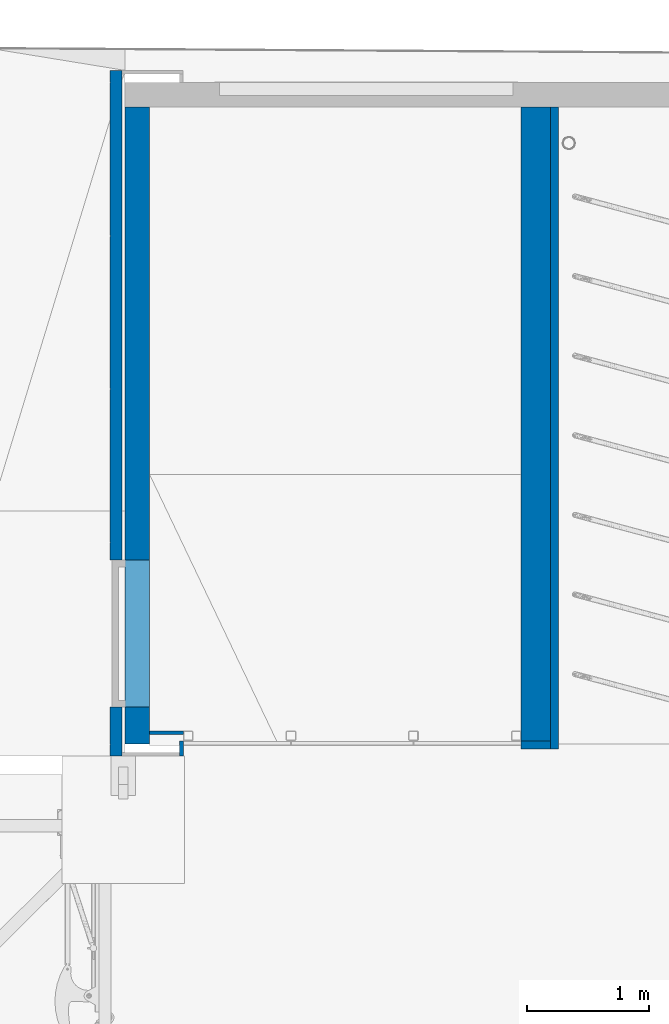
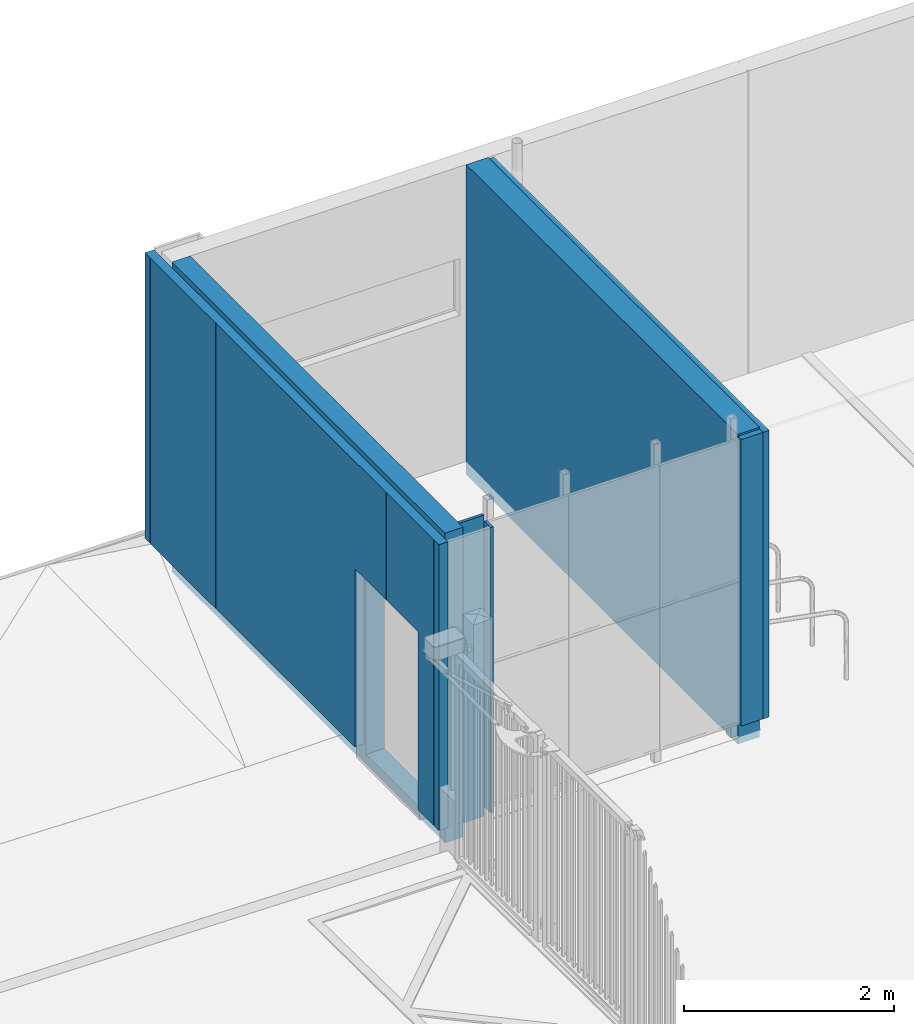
# One storey, part 21 of 77: 7 walls, 9 openings.
"""IFC2X3 building model written with IfcOpenShell, lengths in millimetres."""

from ifc_helpers import new_model, entity, si_unit, converted_unit, derived_unit, direction, frame, frame_2d, origin, place, context, subcontext, project, spatial, rectangle, extrude, material, layer, layer_set, layer_usage, type_object, element, save


model = new_model("IFC2X3")

# Units and contexts
model_context = context("Model", 3, precision=0.01, world=origin(), true_north=direction((6.12303176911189e-17, 1.0)))
body_context = subcontext(model_context, "Body", "Model", "MODEL_VIEW")
ifc_project = project(units=[si_unit("LENGTHUNIT", "METRE", prefix="MILLI"), si_unit("AREAUNIT", "SQUARE_METRE"), si_unit("VOLUMEUNIT", "CUBIC_METRE"), converted_unit("PLANEANGLEUNIT", "DEGREE", entity("IfcRatioMeasure", 0.0174532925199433), si_unit("PLANEANGLEUNIT", "RADIAN"), dimensions=[0, 0, 0, 0, 0, 0, 0]), si_unit("MASSUNIT", "GRAM", prefix="KILO"), derived_unit("MASSDENSITYUNIT", [(si_unit("MASSUNIT", "GRAM", prefix="KILO"), 1), (si_unit("LENGTHUNIT", "METRE"), -3)]), si_unit("TIMEUNIT", "SECOND"), si_unit("FREQUENCYUNIT", "HERTZ"), si_unit("THERMODYNAMICTEMPERATUREUNIT", "DEGREE_CELSIUS"), derived_unit("THERMALTRANSMITTANCEUNIT", [(si_unit("MASSUNIT", "GRAM", prefix="KILO"), 1), (si_unit("THERMODYNAMICTEMPERATUREUNIT", "KELVIN"), -1), (si_unit("TIMEUNIT", "SECOND"), -3)]), derived_unit("VOLUMETRICFLOWRATEUNIT", [(si_unit("LENGTHUNIT", "METRE"), 3), (si_unit("TIMEUNIT", "SECOND"), -1)]), si_unit("ELECTRICCURRENTUNIT", "AMPERE"), si_unit("ELECTRICVOLTAGEUNIT", "VOLT"), si_unit("POWERUNIT", "WATT"), si_unit("FORCEUNIT", "NEWTON", prefix="KILO"), si_unit("ILLUMINANCEUNIT", "LUX"), si_unit("LUMINOUSFLUXUNIT", "LUMEN"), si_unit("LUMINOUSINTENSITYUNIT", "CANDELA"), derived_unit("USERDEFINED", [(si_unit("MASSUNIT", "GRAM", prefix="KILO"), -1), (si_unit("LENGTHUNIT", "METRE"), -2), (si_unit("TIMEUNIT", "SECOND"), 3), (si_unit("LUMINOUSFLUXUNIT", "LUMEN"), 1)]), derived_unit("LINEARVELOCITYUNIT", [(si_unit("LENGTHUNIT", "METRE"), 1), (si_unit("TIMEUNIT", "SECOND"), -1)]), si_unit("PRESSUREUNIT", "PASCAL"), derived_unit("USERDEFINED", [(si_unit("LENGTHUNIT", "METRE"), -2), (si_unit("MASSUNIT", "GRAM", prefix="KILO"), 1), (si_unit("TIMEUNIT", "SECOND"), -2)])], contexts=[model_context])

# Site, building, storey
site_placement = place(None, origin())
site = spatial("IfcSite", under=ifc_project, at=site_placement, Name="Default", CompositionType="ELEMENT")
building_placement = place(site_placement, origin())
building = spatial("IfcBuilding", under=site, at=building_placement, CompositionType="ELEMENT")
storey_placement = place(building_placement, origin())
storey = spatial("IfcBuildingStorey", under=building, at=storey_placement, Name="1. KORRUS", CompositionType="ELEMENT", Elevation=0.0)

# Wall
ifc_material_1 = material(Name="Columbia-kivi(_värvitud-must")
ifc_layer_1 = layer(ifc_material_1, 240.0)
ifc_layer_set_1 = layer_set([ifc_layer_1], Name="Basic Wall:VS-11_Columbia240-must")
ifc_layer_usage_1 = layer_usage(ifc_layer_set_1, "AXIS2", "POSITIVE", -120.0)
wall_type_1 = type_object("IfcWallType", Name="Basic Wall:VS-11_Columbia240-must", PredefinedType="STANDARD", material=ifc_layer_set_1)
wall_1_placement = place(storey_placement, frame((-13120.2343602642, 35425.0994344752, -200.0), z_axis=(0.0, 0.0, 1.0), x_axis=(0.0, 1.0, 0.0)))
element("IfcWallStandardCase", 1, at=wall_1_placement, inside=storey, type_object=wall_type_1, material=ifc_layer_usage_1, Name="Basic Wall:VS-11_Columbia240-must", ObjectType="Basic Wall:VS-11_Columbia240-must", context=body_context, shape_type="SweptSolid", body=[
    extrude(rectangle(XDim=5174.99999999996, YDim=240.000000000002, at=frame_2d((2587.49999999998, 0.0), x_axis=(-1.0, 0.0))), origin(), (0.0, 0.0, 1.0), 3600.0),
])

# Wall, openings
ifc_material_2 = material(Name="Must-al-komposiitplaat")
ifc_layer_2 = layer(ifc_material_2, 5.0)
ifc_material_3 = material(Name="Metal Stud Layer")
ifc_layer_3 = layer(ifc_material_3, 95.0)
ifc_layer_set_2 = layer_set([ifc_layer_2, ifc_layer_3], Name="Basic Wall:Alumiinium-komposiitplaat roovidel")
ifc_layer_usage_2 = layer_usage(ifc_layer_set_2, "AXIS2", "NEGATIVE", 50.0)
wall_type_2 = type_object("IfcWallType", Name="Basic Wall:Alumiinium-komposiitplaat roovidel", PredefinedType="STANDARD", material=ifc_layer_set_2)
wall_2_placement = place(storey_placement, frame((-16550.2351867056, 35300.0994344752, 50.0), z_axis=(0.0, 0.0, 1.0), x_axis=(0.0, 1.0, 0.0)))
wall_2 = element("IfcWallStandardCase", 2, at=wall_2_placement, inside=storey, type_object=wall_type_2, material=ifc_layer_usage_2, Name="Basic Wall:Alumiinium-komposiitplaat roovidel", ObjectType="Basic Wall:Alumiinium-komposiitplaat roovidel", context=body_context, shape_type="SweptSolid", body=[
    extrude(rectangle(XDim=5599.99999999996, YDim=99.9999999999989, at=frame_2d((2799.99999999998, 0.0), x_axis=(-1.0, 0.0))), origin(), (0.0, 0.0, 1.0), 3320.0),
])
opening_1_placement = place(wall_2_placement, origin())
element("IfcOpeningElement", 3, at=opening_1_placement, cuts=wall_2, Name="Basic Wall:Alumiinium-komposiitplaat roovidel", ObjectType="Recess", context=body_context, shape_type="SweptSolid", body=[
    extrude(rectangle(XDim=3320.0, YDim=4.99999999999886, at=frame_2d((2.27373675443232e-13, 0.0), x_axis=(1.0, 0.0))), frame((5497.5, 45.0, 1660.0), z_axis=(0.0, 1.0, 0.0), x_axis=(0.0, 0.0, 1.0)), (0.0, 0.0, 1.0), 5.00000000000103),
])
opening_2_placement = place(wall_2_placement, origin())
element("IfcOpeningElement", 4, at=opening_2_placement, cuts=wall_2, Name="Basic Wall:Alumiinium-komposiitplaat roovidel", ObjectType="Recess", context=body_context, shape_type="SweptSolid", body=[
    extrude(rectangle(XDim=3320.0, YDim=4.99999999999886, at=frame_2d((2.27373675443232e-13, 0.0), x_axis=(1.0, 0.0))), frame((4247.5, 45.0, 1660.0), z_axis=(0.0, 1.0, 0.0), x_axis=(0.0, 0.0, 1.0)), (0.0, 0.0, 1.0), 5.00000000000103),
])
opening_3_placement = place(wall_2_placement, origin())
element("IfcOpeningElement", 5, at=opening_3_placement, cuts=wall_2, Name="Basic Wall:Alumiinium-komposiitplaat roovidel", ObjectType="Recess", context=body_context, shape_type="SweptSolid", body=[
    extrude(rectangle(XDim=3320.0, YDim=4.99999999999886, at=frame_2d((2.27373675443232e-13, 0.0), x_axis=(1.0, 0.0))), frame((5497.5, 45.0, 1660.0), z_axis=(0.0, 1.0, 0.0), x_axis=(0.0, 0.0, 1.0)), (0.0, 0.0, 1.0), 5.00000000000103),
])
opening_4_placement = place(wall_2_placement, origin())
element("IfcOpeningElement", 6, at=opening_4_placement, cuts=wall_2, Name="Basic Wall:Alumiinium-komposiitplaat roovidel", ObjectType="Recess", context=body_context, shape_type="SweptSolid", body=[
    extrude(rectangle(XDim=3320.0, YDim=4.99999999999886, at=frame_2d((2.27373675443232e-13, 0.0), x_axis=(1.0, 0.0))), frame((2997.5, 45.0, 1660.0), z_axis=(0.0, 1.0, 0.0), x_axis=(0.0, 0.0, 1.0)), (0.0, 0.0, 1.0), 5.00000000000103),
])
opening_5_placement = place(wall_2_placement, origin())
element("IfcOpeningElement", 7, at=opening_5_placement, cuts=wall_2, Name="Basic Wall:Alumiinium-komposiitplaat roovidel", ObjectType="Recess", context=body_context, shape_type="SweptSolid", body=[
    extrude(rectangle(XDim=3320.0, YDim=4.99999999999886, at=frame_2d((2.27373675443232e-13, 0.0), x_axis=(1.0, 0.0))), frame((1747.5, 45.0, 1660.0), z_axis=(0.0, 1.0, 0.0), x_axis=(0.0, 0.0, 1.0)), (0.0, 0.0, 1.0), 5.00000000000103),
])
opening_6_placement = place(wall_2_placement, origin())
element("IfcOpeningElement", 8, at=opening_6_placement, cuts=wall_2, Name="Basic Wall:Alumiinium-komposiitplaat roovidel", ObjectType="Recess", context=body_context, shape_type="SweptSolid", body=[
    extrude(rectangle(XDim=1250.0, YDim=4.99999999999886, at=frame_2d((-1.13686837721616e-13, 0.0), x_axis=(1.0, 0.0))), frame((1002.5, 45.0, 2695.0), z_axis=(0.0, 1.0, 0.0), x_axis=(0.0, 0.0, 1.0)), (0.0, 0.0, 1.0), 5.00000000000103),
])
opening_7_placement = place(wall_2_placement, origin())
element("IfcOpeningElement", 9, at=opening_7_placement, cuts=wall_2, Name="Basic Wall:Alumiinium-komposiitplaat roovidel", ObjectType="Recess", context=body_context, shape_type="SweptSolid", body=[
    extrude(rectangle(XDim=3320.0, YDim=4.99999999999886, at=frame_2d((2.27373675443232e-13, 0.0), x_axis=(1.0, 0.0))), frame((97.4999999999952, 45.0, 1660.0), z_axis=(0.0, 1.0, 0.0), x_axis=(0.0, 0.0, 1.0)), (0.0, 0.0, 1.0), 5.00000000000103),
])
opening_8_placement = place(wall_2_placement, frame((400.0, -50.0, -130.0)))
element("IfcOpeningElement", 10, at=opening_8_placement, cuts=wall_2, Name="uks_1p:VU12-3_1200x2200:1", ObjectType="Opening", context=body_context, shape_type="SweptSolid", body=[
    extrude(rectangle(XDim=1200.0, YDim=2200.0, at=frame_2d((1100.0, 600.0), x_axis=(0.0, 1.0))), frame((0.0, 0.0, 0.0), z_axis=(0.0, 1.0, 0.0), x_axis=(0.0, 0.0, 1.0)), (0.0, 0.0, 1.0), 100.0),
])

# Walls
ifc_material_4 = material(Name="Default New Material-must puit")
ifc_layer_4 = layer(ifc_material_4, 21.0)
ifc_material_5 = material(Name="Default New Material-must puit_roov")
ifc_layer_5 = layer(ifc_material_5, 45.0)
ifc_layer_set_3 = layer_set([ifc_layer_4, ifc_layer_5], Name="Basic Wall:VS-11_puitvooder")
ifc_layer_usage_3 = layer_usage(ifc_layer_set_3, "AXIS2", "NEGATIVE", 33.0)
wall_type_3 = type_object("IfcWallType", Name="Basic Wall:VS-11_puitvooder", PredefinedType="STANDARD", material=ifc_layer_set_3)
wall_3_placement = place(storey_placement, frame((-12967.2343602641, 40600.0994344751, 50.0), z_axis=(0.0, 0.0, 1.0), x_axis=(0.0, -1.0, 0.0)))
element("IfcWallStandardCase", 11, at=wall_3_placement, inside=storey, type_object=wall_type_3, material=ifc_layer_usage_3, Name="Basic Wall:VS-11_puitvooder", ObjectType="Basic Wall:VS-11_puitvooder", context=body_context, shape_type="SweptSolid", body=[
    extrude(rectangle(XDim=5240.99999999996, YDim=65.999999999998, at=frame_2d((2620.49999999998, 2.52242671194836e-13), x_axis=(-1.0, 0.0))), origin(), (0.0, 0.0, 1.0), 3330.0),
])
ifc_layer_usage_4 = layer_usage(ifc_layer_set_3, "AXIS2", "POSITIVE", -33.0)
wall_4_placement = place(storey_placement, frame((-13240.2343602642, 35392.0994344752, 50.0)))
element("IfcWallStandardCase", 12, at=wall_4_placement, inside=storey, type_object=wall_type_3, material=ifc_layer_usage_4, Name="Basic Wall:VS-11_puitvooder", ObjectType="Basic Wall:VS-11_puitvooder", context=body_context, shape_type="SweptSolid", body=[
    extrude(rectangle(XDim=239.999999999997, YDim=66.0000000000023, at=frame_2d((119.999999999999, 0.0), x_axis=(-1.0, 0.0))), origin(), (0.0, 0.0, 1.0), 3330.0),
])
ifc_layer_6 = layer(ifc_material_2, 5.0)
ifc_layer_7 = layer(ifc_material_3, 25.0)
ifc_layer_set_4 = layer_set([ifc_layer_6, ifc_layer_7], Name="Basic Wall:komposiitplaat+karkass25")
ifc_layer_usage_5 = layer_usage(ifc_layer_set_4, "AXIS2", "NEGATIVE", 15.0)
wall_type_4 = type_object("IfcWallType", Name="Basic Wall:komposiitplaat+karkass25", PredefinedType="STANDARD", material=ifc_layer_set_4)
wall_5_placement = place(storey_placement, frame((-16015.0, 35425.0994344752, 50.0), z_axis=(0.0, 0.0, 1.0), x_axis=(0.0, -1.0, 0.0)))
element("IfcWallStandardCase", 13, at=wall_5_placement, inside=storey, type_object=wall_type_4, material=ifc_layer_usage_5, Name="Basic Wall:komposiitplaat+karkass25", ObjectType="Basic Wall:komposiitplaat+karkass25", context=body_context, shape_type="SweptSolid", body=[
    extrude(rectangle(XDim=124.999999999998, YDim=30.0000000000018, at=frame_2d((62.4999999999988, 0.0), x_axis=(-1.0, 0.0))), origin(), (0.0, 0.0, 1.0), 3320.0),
])
ifc_layer_usage_6 = layer_usage(ifc_layer_set_4, "AXIS2", "NEGATIVE", 15.0)
wall_6_placement = place(storey_placement, frame((-16275.2351867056, 35490.0994344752, -100.0)))
element("IfcWallStandardCase", 14, at=wall_6_placement, inside=storey, type_object=wall_type_4, material=ifc_layer_usage_6, Name="Basic Wall:komposiitplaat+karkass25", ObjectType="Basic Wall:komposiitplaat+karkass25", context=body_context, shape_type="SweptSolid", body=[
    extrude(rectangle(XDim=275.235186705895, YDim=30.0000000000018, at=frame_2d((137.617593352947, 0.0), x_axis=(-1.0, 0.0))), origin(), (0.0, 0.0, 1.0), 3500.0),
])

# Wall, opening
ifc_material_6 = material(Name="r/b")
ifc_layer_8 = layer(ifc_material_6, 200.0)
ifc_layer_set_5 = layer_set([ifc_layer_8], Name="Basic Wall:VS-10_R/B200 varjualune")
ifc_layer_usage_7 = layer_usage(ifc_layer_set_5, "AXIS2", "NEGATIVE", 100.0)
wall_type_5 = type_object("IfcWallType", Name="Basic Wall:VS-10_R/B200 varjualune", PredefinedType="STANDARD", material=ifc_layer_set_5)
wall_7_placement = place(storey_placement, frame((-16375.2351867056, 40600.0994344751, -200.0), z_axis=(0.0, 0.0, 1.0), x_axis=(0.0, -1.0, 0.0)))
wall_7 = element("IfcWallStandardCase", 15, at=wall_7_placement, inside=storey, type_object=wall_type_5, material=ifc_layer_usage_7, Name="Basic Wall:VS-10_R/B200 varjualune", ObjectType="Basic Wall:VS-10_R/B200 varjualune", context=body_context, shape_type="SweptSolid", body=[
    extrude(rectangle(XDim=5199.99999999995, YDim=200.000000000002, at=frame_2d((2599.99999999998, -7.105427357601e-14), x_axis=(-1.0, 0.0))), origin(), (0.0, 0.0, 1.0), 3600.0),
])
opening_9_placement = place(wall_7_placement, frame((40600.0994344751, 16375.2351867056, 200.0), z_axis=(0.0, 0.0, 1.0), x_axis=(0.0, 1.0, 0.0)))
element("IfcOpeningElement", 16, at=opening_9_placement, cuts=wall_7, Name="Basic Wall:VS-10_R/B200 varjualune", ObjectType="Opening", context=body_context, shape_type="SweptSolid", body=[
    extrude(rectangle(XDim=2200.0, YDim=1200.0, at=frame_2d((2.1600499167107e-12, 0.0), x_axis=(0.0, 1.0))), frame((-17999.2351867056, 36300.0994344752, 1020.0), z_axis=(1.0, 0.0, 0.0), x_axis=(0.0, -1.0, 0.0)), (0.0, 0.0, 1.0), 3048.0),
])

save(model, "model.ifc")
